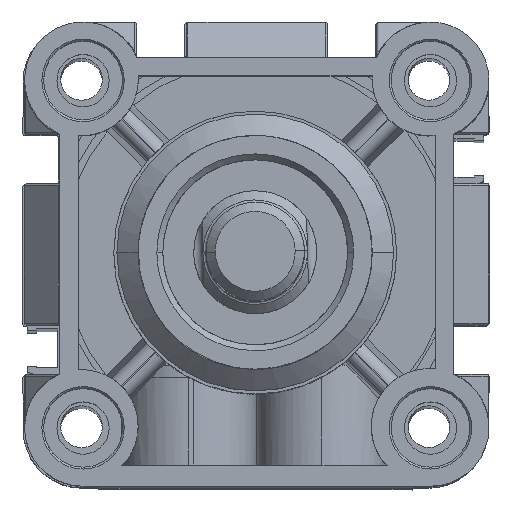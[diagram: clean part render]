
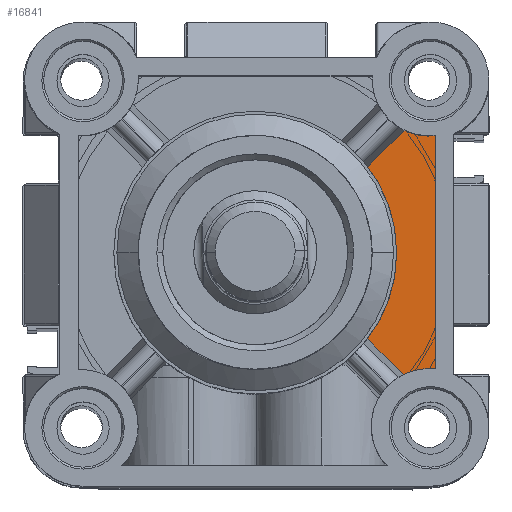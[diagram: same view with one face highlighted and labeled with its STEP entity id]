
A CAD part, top view. The second image highlights one B-rep face of the part: STEP entity #16841.
In plain terms, the highlighted planar face has unit normal (0, 0, 1) as drawn and (0, 0, -1) by its records, which use the part's own axes.
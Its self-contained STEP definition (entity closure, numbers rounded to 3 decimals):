
#103 = DIRECTION ( 'NONE',  ( 0., 0., 1. ) ) ;
#119 = ORIENTED_EDGE ( 'NONE', *, *, #7491, .T. ) ;
#1186 = CARTESIAN_POINT ( 'NONE',  ( 9.25, 32.25, 33. ) ) ;
#1254 = DIRECTION ( 'NONE',  ( 0., 0., 1. ) ) ;
#1601 = VERTEX_POINT ( 'NONE', #13674 ) ;
#1825 = LINE ( 'NONE', #9356, #4040 ) ;
#2115 = CARTESIAN_POINT ( 'NONE',  ( 14.041, 12.194, 33. ) ) ;
#2450 = CIRCLE ( 'NONE', #16407, 23. ) ;
#2835 = EDGE_LOOP ( 'NONE', ( #9130, #20558, #12226, #119, #15205, #11236, #21082 ) ) ;
#3097 = VERTEX_POINT ( 'NONE', #11758 ) ;
#3711 = DIRECTION ( 'NONE',  ( 0., 0., -1. ) ) ;
#3837 = CARTESIAN_POINT ( 'NONE',  ( 13.975, 18.285, 33. ) ) ;
#4003 = VECTOR ( 'NONE', #13590, 1000. ) ;
#4040 = VECTOR ( 'NONE', #12672, 1000. ) ;
#5242 = CARTESIAN_POINT ( 'NONE',  ( 32.25, 32.25, 33. ) ) ;
#5783 = VERTEX_POINT ( 'NONE', #16209 ) ;
#5931 = VERTEX_POINT ( 'NONE', #3837 ) ;
#6772 = PLANE ( 'NONE',  #16035 ) ;
#6839 = DIRECTION ( 'NONE',  ( -1., 0., 0. ) ) ;
#7182 = VECTOR ( 'NONE', #13529, 1000. ) ;
#7491 = EDGE_CURVE ( 'NONE', #1601, #13334, #2450, .T. ) ;
#7701 = LINE ( 'NONE', #15034, #7182 ) ;
#8673 = DIRECTION ( 'NONE',  ( 0., 0., 1. ) ) ;
#9130 = ORIENTED_EDGE ( 'NONE', *, *, #17308, .T. ) ;
#9356 = CARTESIAN_POINT ( 'NONE',  ( 13.975, 18.285, 33. ) ) ;
#9811 = CARTESIAN_POINT ( 'NONE',  ( 4., 4., 33. ) ) ;
#10194 = EDGE_CURVE ( 'NONE', #13334, #5931, #14732, .T. ) ;
#10314 = CIRCLE ( 'NONE', #11133, 9.386 ) ;
#10521 = AXIS2_PLACEMENT_3D ( 'NONE', #5242, #16875, #6839 ) ;
#10972 = CARTESIAN_POINT ( 'NONE',  ( 4., 60.5, 33. ) ) ;
#11133 = AXIS2_PLACEMENT_3D ( 'NONE', #9811, #103, #11488 ) ;
#11236 = ORIENTED_EDGE ( 'NONE', *, *, #13991, .T. ) ;
#11488 = DIRECTION ( 'NONE',  ( -1., 0., 0. ) ) ;
#11758 = CARTESIAN_POINT ( 'NONE',  ( 3., 13.333, 33. ) ) ;
#12226 = ORIENTED_EDGE ( 'NONE', *, *, #15229, .T. ) ;
#12672 = DIRECTION ( 'NONE',  ( -0.707, -0.707, 0. ) ) ;
#12685 = DIRECTION ( 'NONE',  ( -1., 0., 0. ) ) ;
#13334 = VERTEX_POINT ( 'NONE', #1186 ) ;
#13486 = VERTEX_POINT ( 'NONE', #16405 ) ;
#13529 = DIRECTION ( 'NONE',  ( 0., 1., 0. ) ) ;
#13543 = FACE_OUTER_BOUND ( 'NONE', #2835, .T. ) ;
#13590 = DIRECTION ( 'NONE',  ( 0.707, -0.707, 0. ) ) ;
#13674 = CARTESIAN_POINT ( 'NONE',  ( 13.975, 46.215, 33. ) ) ;
#13991 = EDGE_CURVE ( 'NONE', #5931, #13486, #1825, .T. ) ;
#14130 = AXIS2_PLACEMENT_3D ( 'NONE', #10972, #1254, #12685 ) ;
#14732 = CIRCLE ( 'NONE', #10521, 23. ) ;
#15034 = CARTESIAN_POINT ( 'NONE',  ( 3., 32.319, 33. ) ) ;
#15205 = ORIENTED_EDGE ( 'NONE', *, *, #10194, .T. ) ;
#15222 = CARTESIAN_POINT ( 'NONE',  ( 8.021, 52.169, 33. ) ) ;
#15229 = EDGE_CURVE ( 'NONE', #21180, #1601, #17728, .T. ) ;
#15258 = DIRECTION ( 'NONE',  ( -1., 0., 0. ) ) ;
#15262 = CARTESIAN_POINT ( 'NONE',  ( 8.021, 52.169, 33. ) ) ;
#16035 = AXIS2_PLACEMENT_3D ( 'NONE', #2115, #3711, #15258 ) ;
#16209 = CARTESIAN_POINT ( 'NONE',  ( 3., 51.304, 33. ) ) ;
#16405 = CARTESIAN_POINT ( 'NONE',  ( 8.123, 12.433, 33. ) ) ;
#16407 = AXIS2_PLACEMENT_3D ( 'NONE', #18722, #8673, #20396 ) ;
#16841 = ADVANCED_FACE ( 'NONE', ( #13543 ), #6772, .T. ) ;
#16868 = CIRCLE ( 'NONE', #14130, 9.25 ) ;
#16875 = DIRECTION ( 'NONE',  ( 0., 0., 1. ) ) ;
#17308 = EDGE_CURVE ( 'NONE', #3097, #5783, #7701, .T. ) ;
#17589 = EDGE_CURVE ( 'NONE', #5783, #21180, #16868, .T. ) ;
#17728 = LINE ( 'NONE', #15222, #4003 ) ;
#17737 = EDGE_CURVE ( 'NONE', #13486, #3097, #10314, .T. ) ;
#18722 = CARTESIAN_POINT ( 'NONE',  ( 32.25, 32.25, 33. ) ) ;
#20396 = DIRECTION ( 'NONE',  ( -1., 0., 0. ) ) ;
#20558 = ORIENTED_EDGE ( 'NONE', *, *, #17589, .T. ) ;
#21082 = ORIENTED_EDGE ( 'NONE', *, *, #17737, .T. ) ;
#21180 = VERTEX_POINT ( 'NONE', #15262 ) ;
